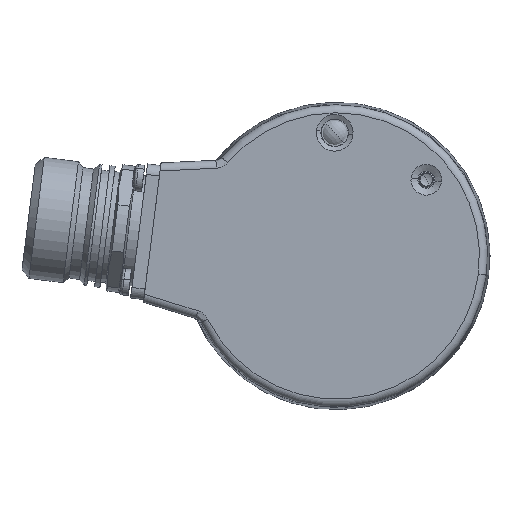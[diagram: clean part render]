
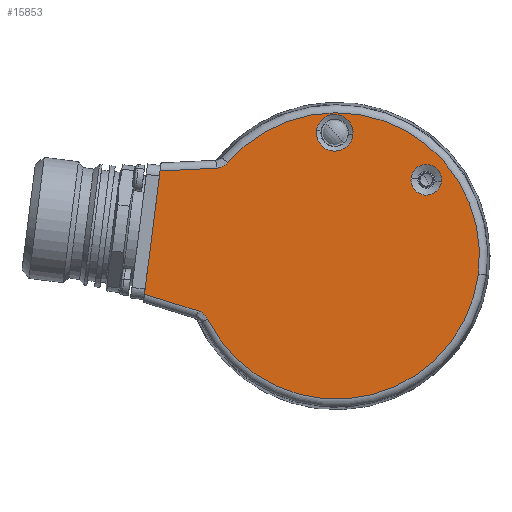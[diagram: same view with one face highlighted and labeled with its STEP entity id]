
A CAD part, left-side view. The second image highlights one B-rep face of the part: STEP entity #15853.
In plain terms, the highlighted planar face has unit normal (-1, 0, 0).
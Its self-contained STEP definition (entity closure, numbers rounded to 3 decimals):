
#10322 = CARTESIAN_POINT ( 'NONE',  ( -30.5, -19.858, 14.01 ) ) ;
#10388 = CARTESIAN_POINT ( 'NONE',  ( -30.5, -3.134, 22.811 ) ) ;
#10393 = DIRECTION ( 'NONE',  ( 0., -0.992, -0.126 ) ) ;
#10394 = DIRECTION ( 'NONE',  ( 1., 0., 0. ) ) ;
#10395 = CARTESIAN_POINT ( 'NONE',  ( -30.5, 0.304, 23.248 ) ) ;
#10396 = AXIS2_PLACEMENT_3D ( 'NONE', #10395, #10394, #10393 ) ;
#10397 = CIRCLE ( 'NONE', #10396, 3.466 ) ;
#10398 = CARTESIAN_POINT ( 'NONE',  ( -30.5, 3.743, 23.685 ) ) ;
#10444 = CARTESIAN_POINT ( 'NONE',  ( -30.5, 20.503, 17.602 ) ) ;
#10445 = DIRECTION ( 'NONE',  ( 0., -0.992, -0.126 ) ) ;
#10446 = DIRECTION ( 'NONE',  ( -1., 0., 0. ) ) ;
#10447 = CARTESIAN_POINT ( 'NONE',  ( -30.5, 0., 0. ) ) ;
#10448 = AXIS2_PLACEMENT_3D ( 'NONE', #10447, #10446, #10445 ) ;
#10449 = CIRCLE ( 'NONE', #10448, 27.022 ) ;
#10450 = CARTESIAN_POINT ( 'NONE',  ( -30.5, -26.806, -3.41 ) ) ;
#10468 = CARTESIAN_POINT ( 'NONE',  ( -30.5, -14.106, 14.742 ) ) ;
#10585 = DIRECTION ( 'NONE',  ( 0., -0.992, -0.126 ) ) ;
#10586 = DIRECTION ( 'NONE',  ( 1., 0., 0. ) ) ;
#10587 = CARTESIAN_POINT ( 'NONE',  ( -30.5, -16.982, 14.376 ) ) ;
#10588 = AXIS2_PLACEMENT_3D ( 'NONE', #10587, #10586, #10585 ) ;
#10593 = CIRCLE ( 'NONE', #10588, 2.899 ) ;
#11844 = DIRECTION ( 'NONE',  ( 0., 0.999, -0.048 ) ) ;
#11845 = VECTOR ( 'NONE', #11844, 1000. ) ;
#11846 = CARTESIAN_POINT ( 'NONE',  ( -30.5, 32.976, 16.063 ) ) ;
#11853 = LINE ( 'NONE', #11846, #11845 ) ;
#11854 = CARTESIAN_POINT ( 'NONE',  ( -30.5, 33.24, 16.05 ) ) ;
#11885 = CARTESIAN_POINT ( 'NONE',  ( -30.5, 22.635, 16.559 ) ) ;
#12217 = CARTESIAN_POINT ( 'NONE',  ( -30.5, 24.257, -11.908 ) ) ;
#12247 = CARTESIAN_POINT ( 'NONE',  ( -30.5, 24.457, -11.549 ) ) ;
#12248 = CARTESIAN_POINT ( 'NONE',  ( -30.5, 24.347, -11.724 ) ) ;
#12249 = CARTESIAN_POINT ( 'NONE',  ( -30.5, 24.257, -11.908 ) ) ;
#12251 = B_SPLINE_CURVE_WITH_KNOTS ( 'NONE', 3,
 ( #12249, #12248, #12247, #12408, #12402, #12401, #12400, #12603, #12602, #12674 ),
 .UNSPECIFIED., .F., .F.,
 ( 4, 2, 2, 2, 4 ),
 ( 0., 0.001, 0.001, 0.002, 0.002 ),
 .UNSPECIFIED. ) ;
#12400 = CARTESIAN_POINT ( 'NONE',  ( -30.5, 25.324, -10.7 ) ) ;
#12401 = CARTESIAN_POINT ( 'NONE',  ( -30.5, 25.155, -10.818 ) ) ;
#12402 = CARTESIAN_POINT ( 'NONE',  ( -30.5, 24.846, -11.082 ) ) ;
#12403 = DIRECTION ( 'NONE',  ( 0., -0.992, -0.126 ) ) ;
#12404 = DIRECTION ( 'NONE',  ( -1., 0., 0. ) ) ;
#12405 = CARTESIAN_POINT ( 'NONE',  ( -30.5, 0., 0. ) ) ;
#12406 = AXIS2_PLACEMENT_3D ( 'NONE', #12405, #12404, #12403 ) ;
#12407 = CIRCLE ( 'NONE', #12406, 27.022 ) ;
#12408 = CARTESIAN_POINT ( 'NONE',  ( -30.5, 24.706, -11.228 ) ) ;
#12530 = DIRECTION ( 'NONE',  ( 0., -0.992, -0.126 ) ) ;
#12531 = DIRECTION ( 'NONE',  ( 1., 0., 0. ) ) ;
#12532 = CARTESIAN_POINT ( 'NONE',  ( -30.5, -16.982, 14.376 ) ) ;
#12533 = AXIS2_PLACEMENT_3D ( 'NONE', #12532, #12531, #12530 ) ;
#12539 = CIRCLE ( 'NONE', #12533, 2.899 ) ;
#12569 = CARTESIAN_POINT ( 'NONE',  ( -30.5, 20.503, 17.602 ) ) ;
#12570 = CARTESIAN_POINT ( 'NONE',  ( -30.5, 20.636, 17.446 ) ) ;
#12571 = CARTESIAN_POINT ( 'NONE',  ( -30.5, 20.783, 17.307 ) ) ;
#12572 = CARTESIAN_POINT ( 'NONE',  ( -30.5, 21.103, 17.06 ) ) ;
#12573 = CARTESIAN_POINT ( 'NONE',  ( -30.5, 21.278, 16.95 ) ) ;
#12574 = CARTESIAN_POINT ( 'NONE',  ( -30.5, 21.643, 16.772 ) ) ;
#12575 = CARTESIAN_POINT ( 'NONE',  ( -30.5, 21.833, 16.702 ) ) ;
#12576 = CARTESIAN_POINT ( 'NONE',  ( -30.5, 22.227, 16.6 ) ) ;
#12577 = CARTESIAN_POINT ( 'NONE',  ( -30.5, 22.431, 16.569 ) ) ;
#12578 = CARTESIAN_POINT ( 'NONE',  ( -30.5, 22.635, 16.559 ) ) ;
#12587 = B_SPLINE_CURVE_WITH_KNOTS ( 'NONE', 3,
 ( #12578, #12577, #12576, #12575, #12574, #12573, #12572, #12571, #12570, #12569 ),
 .UNSPECIFIED., .F., .F.,
 ( 4, 2, 2, 2, 4 ),
 ( 0., 0.001, 0.001, 0.002, 0.002 ),
 .UNSPECIFIED. ) ;
#12602 = CARTESIAN_POINT ( 'NONE',  ( -30.5, 25.865, -10.425 ) ) ;
#12603 = CARTESIAN_POINT ( 'NONE',  ( -30.5, 25.679, -10.505 ) ) ;
#12608 = CARTESIAN_POINT ( 'NONE',  ( -30.5, 36.2, -7.216 ) ) ;
#12674 = CARTESIAN_POINT ( 'NONE',  ( -30.5, 26.061, -10.365 ) ) ;
#12681 = DIRECTION ( 'NONE',  ( 0., -0.955, -0.297 ) ) ;
#12682 = VECTOR ( 'NONE', #12681, 1000. ) ;
#12683 = CARTESIAN_POINT ( 'NONE',  ( -30.5, 25.409, -10.567 ) ) ;
#12684 = LINE ( 'NONE', #12683, #12682 ) ;
#12689 = CARTESIAN_POINT ( 'NONE',  ( -30.5, 26.061, -10.365 ) ) ;
#12754 = DIRECTION ( 'NONE',  ( 0., -0.992, -0.126 ) ) ;
#12755 = DIRECTION ( 'NONE',  ( 1., 0., 0. ) ) ;
#12756 = CARTESIAN_POINT ( 'NONE',  ( -30.5, 0., 0. ) ) ;
#12757 = AXIS2_PLACEMENT_3D ( 'NONE', #12756, #12755, #12754 ) ;
#12803 = DIRECTION ( 'NONE',  ( 0., -0.126, 0.992 ) ) ;
#12804 = VECTOR ( 'NONE', #12803, 1000. ) ;
#12805 = CARTESIAN_POINT ( 'NONE',  ( -30.5, 36.392, -8.727 ) ) ;
#12806 = LINE ( 'NONE', #12805, #12804 ) ;
#12842 = PLANE ( 'NONE',  #12757 ) ;
#12857 = FACE_OUTER_BOUND ( 'NONE', #15814, .T. ) ;
#12858 = FACE_BOUND ( 'NONE', #15836, .T. ) ;
#12859 = FACE_BOUND ( 'NONE', #15841, .T. ) ;
#12860 = DIRECTION ( 'NONE',  ( 0., -0.992, -0.126 ) ) ;
#12861 = DIRECTION ( 'NONE',  ( 1., 0., 0. ) ) ;
#12862 = CARTESIAN_POINT ( 'NONE',  ( -30.5, 0.304, 23.248 ) ) ;
#12863 = AXIS2_PLACEMENT_3D ( 'NONE', #12862, #12861, #12860 ) ;
#12864 = CIRCLE ( 'NONE', #12863, 3.466 ) ;
#15487 = VERTEX_POINT ( 'NONE', #10398 ) ;
#15489 = EDGE_CURVE ( 'NONE', #15487, #15491, #10397, .T. ) ;
#15491 = VERTEX_POINT ( 'NONE', #10388 ) ;
#15546 = VERTEX_POINT ( 'NONE', #10322 ) ;
#15569 = EDGE_CURVE ( 'NONE', #15588, #15546, #10593, .T. ) ;
#15588 = VERTEX_POINT ( 'NONE', #10468 ) ;
#15601 = VERTEX_POINT ( 'NONE', #10450 ) ;
#15602 = EDGE_CURVE ( 'NONE', #15601, #15603, #10449, .T. ) ;
#15603 = VERTEX_POINT ( 'NONE', #10444 ) ;
#15679 = VERTEX_POINT ( 'NONE', #11885 ) ;
#15685 = VERTEX_POINT ( 'NONE', #11854 ) ;
#15687 = EDGE_CURVE ( 'NONE', #15679, #15685, #11853, .T. ) ;
#15739 = VERTEX_POINT ( 'NONE', #12217 ) ;
#15745 = EDGE_CURVE ( 'NONE', #15739, #15601, #12407, .T. ) ;
#15748 = EDGE_CURVE ( 'NONE', #15739, #15755, #12251, .T. ) ;
#15755 = VERTEX_POINT ( 'NONE', #12689 ) ;
#15758 = EDGE_CURVE ( 'NONE', #15768, #15755, #12684, .T. ) ;
#15768 = VERTEX_POINT ( 'NONE', #12608 ) ;
#15795 = EDGE_CURVE ( 'NONE', #15679, #15603, #12587, .T. ) ;
#15801 = EDGE_CURVE ( 'NONE', #15546, #15588, #12539, .T. ) ;
#15808 = ORIENTED_EDGE ( 'NONE', *, *, #15748, .F. ) ;
#15811 = ORIENTED_EDGE ( 'NONE', *, *, #15824, .F. ) ;
#15812 = ORIENTED_EDGE ( 'NONE', *, *, #15758, .T. ) ;
#15814 = EDGE_LOOP ( 'NONE', ( #15820, #15821, #15811, #15812, #15808, #15816, #15823 ) ) ;
#15816 = ORIENTED_EDGE ( 'NONE', *, *, #15745, .T. ) ;
#15819 = ORIENTED_EDGE ( 'NONE', *, *, #15801, .T. ) ;
#15820 = ORIENTED_EDGE ( 'NONE', *, *, #15795, .F. ) ;
#15821 = ORIENTED_EDGE ( 'NONE', *, *, #15687, .T. ) ;
#15823 = ORIENTED_EDGE ( 'NONE', *, *, #15602, .T. ) ;
#15824 = EDGE_CURVE ( 'NONE', #15768, #15685, #12806, .T. ) ;
#15834 = ORIENTED_EDGE ( 'NONE', *, *, #15569, .T. ) ;
#15836 = EDGE_LOOP ( 'NONE', ( #15834, #15819 ) ) ;
#15841 = EDGE_LOOP ( 'NONE', ( #15847, #15854 ) ) ;
#15847 = ORIENTED_EDGE ( 'NONE', *, *, #15489, .T. ) ;
#15849 = EDGE_CURVE ( 'NONE', #15491, #15487, #12864, .T. ) ;
#15853 = ADVANCED_FACE ( 'NONE', ( #12859, #12858, #12857 ), #12842, .F. ) ;
#15854 = ORIENTED_EDGE ( 'NONE', *, *, #15849, .T. ) ;
